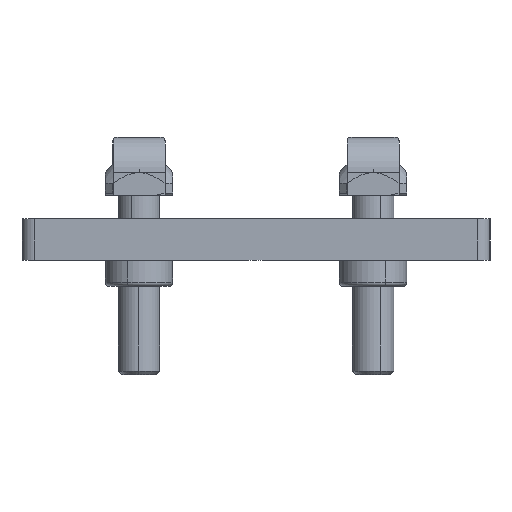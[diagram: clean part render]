
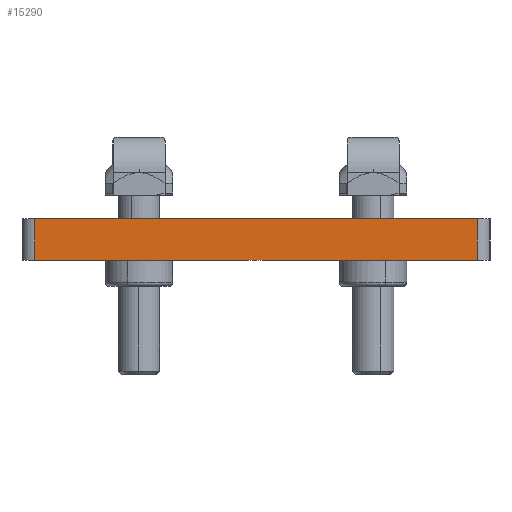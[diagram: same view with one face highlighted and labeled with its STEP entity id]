
A CAD part, left-side view. The second image highlights one B-rep face of the part: STEP entity #15290.
In plain terms, the highlighted planar face has unit normal (-1, 0, 0).
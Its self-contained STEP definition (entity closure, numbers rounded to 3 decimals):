
#706 = DIRECTION ( 'NONE',  ( 0., -1., 0. ) ) ;
#2902 = ORIENTED_EDGE ( 'NONE', *, *, #16790, .T. ) ;
#3674 = ORIENTED_EDGE ( 'NONE', *, *, #5947, .T. ) ;
#4039 = EDGE_CURVE ( 'NONE', #6905, #7847, #7137, .T. ) ;
#4042 = FACE_OUTER_BOUND ( 'NONE', #7110, .T. ) ;
#4051 = CARTESIAN_POINT ( 'NONE',  ( 571.668, 806.166, 1275.649 ) ) ;
#4215 = PLANE ( 'NONE',  #15229 ) ;
#4880 = CARTESIAN_POINT ( 'NONE',  ( 571.668, 808.666, 1275.649 ) ) ;
#5448 = CARTESIAN_POINT ( 'NONE',  ( 571.668, 808.666, 1283.649 ) ) ;
#5947 = EDGE_CURVE ( 'NONE', #13005, #7847, #11345, .T. ) ;
#6430 = LINE ( 'NONE', #11629, #14043 ) ;
#6905 = VERTEX_POINT ( 'NONE', #15341 ) ;
#6931 = CARTESIAN_POINT ( 'NONE',  ( 571.668, 893.666, 1275.649 ) ) ;
#7110 = EDGE_LOOP ( 'NONE', ( #2902, #3674, #15773, #16564 ) ) ;
#7137 = LINE ( 'NONE', #13642, #11801 ) ;
#7149 = VECTOR ( 'NONE', #15338, 1000. ) ;
#7847 = VERTEX_POINT ( 'NONE', #5448 ) ;
#10053 = CARTESIAN_POINT ( 'NONE',  ( 571.668, 808.666, 1283.649 ) ) ;
#10423 = DIRECTION ( 'NONE',  ( 1., 0., 0. ) ) ;
#10445 = DIRECTION ( 'NONE',  ( 0., 0., -1. ) ) ;
#10518 = DIRECTION ( 'NONE',  ( 0., -1., 0. ) ) ;
#11345 = LINE ( 'NONE', #10053, #7149 ) ;
#11629 = CARTESIAN_POINT ( 'NONE',  ( 571.668, 893.666, 1283.649 ) ) ;
#11801 = VECTOR ( 'NONE', #706, 1000. ) ;
#12132 = VECTOR ( 'NONE', #10518, 1000. ) ;
#12909 = DIRECTION ( 'NONE',  ( 0., 0., -1. ) ) ;
#13005 = VERTEX_POINT ( 'NONE', #4880 ) ;
#13642 = CARTESIAN_POINT ( 'NONE',  ( 571.668, 806.166, 1283.649 ) ) ;
#14043 = VECTOR ( 'NONE', #10445, 1000. ) ;
#14297 = EDGE_CURVE ( 'NONE', #6905, #16701, #6430, .T. ) ;
#14655 = LINE ( 'NONE', #4051, #12132 ) ;
#15229 = AXIS2_PLACEMENT_3D ( 'NONE', #15838, #10423, #12909 ) ;
#15290 = ADVANCED_FACE ( 'NONE', ( #4042 ), #4215, .F. ) ;
#15338 = DIRECTION ( 'NONE',  ( 0., 0., 1. ) ) ;
#15341 = CARTESIAN_POINT ( 'NONE',  ( 571.668, 893.666, 1283.649 ) ) ;
#15773 = ORIENTED_EDGE ( 'NONE', *, *, #4039, .F. ) ;
#15838 = CARTESIAN_POINT ( 'NONE',  ( 571.668, 806.166, 1283.649 ) ) ;
#16564 = ORIENTED_EDGE ( 'NONE', *, *, #14297, .T. ) ;
#16701 = VERTEX_POINT ( 'NONE', #6931 ) ;
#16790 = EDGE_CURVE ( 'NONE', #16701, #13005, #14655, .T. ) ;
